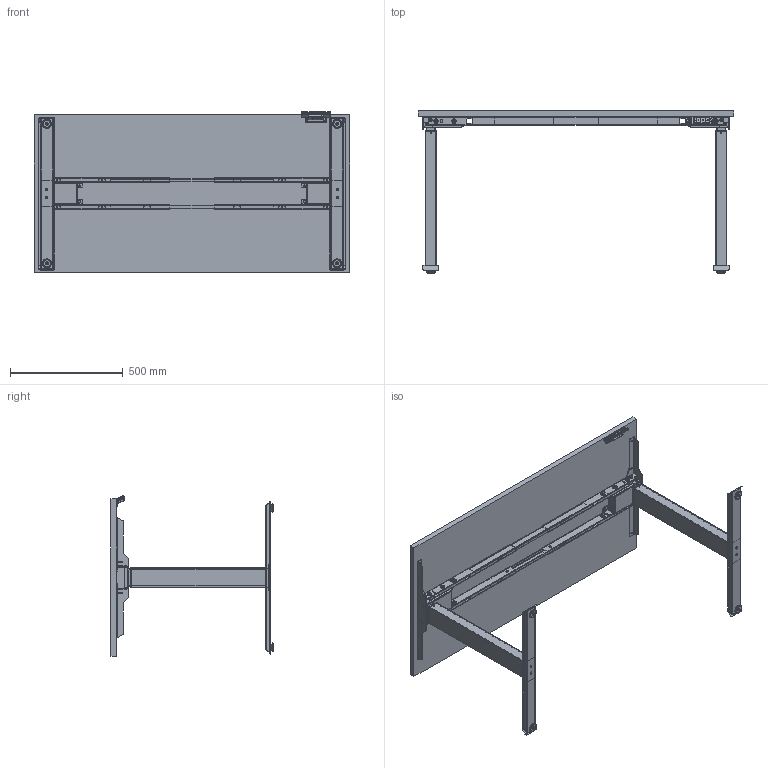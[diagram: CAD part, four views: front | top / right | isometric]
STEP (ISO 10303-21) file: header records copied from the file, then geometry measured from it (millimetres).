
FILE_DESCRIPTION (( 'STEP AP203' ), '1' );
FILE_NAME ('Mesa ACCESS Chapa.STEP', '2026-09-21T16:28:14', ( '' ), ( '' ), 'SwSTEP 2.0', 'SolidWorks 2026', '' );
FILE_SCHEMA (( 'CONFIG_CONTROL_DESIGN' ));
Length unit declared in the file: millimetre
Products named in the file (18): 042182; Mesa ACCESS Chapa; 039436; 021576_Ilustrativa; 042167; 031104M3; 042164; 000847; 039430; 035581; 042193; Tampo 700x1400; 042165; 004038; 029621; 042166; 039426; 039424M
Assembly tree (32 placements, depth 4):
  Mesa ACCESS Chapa
    039424M  x2
      039426
      039430
      031104M3
      021576_Ilustrativa
      004038
    042164  x2
      042165
        042166
        042167
        039436
      000847
    035581  x2
    042182  x2
    042193
    029621  x4
    Tampo 700x1400
Bounding box: 1400 x 720 x 714.3 mm (x, y, z)
Volume: 28609158.3 mm3; surface area: 5011196.8 mm2
Topology: 102 solids, 102 shells, 4900 faces, 12887 edges, 8271 vertices
Faces by surface type: plane 2724, cylinder 1644, bspline 257, torus 142, cone 131, sphere 2
Entity records: 118299 total; most frequent: CARTESIAN_POINT 40158, ORIENTED_EDGE 16224, DIRECTION 14942, EDGE_CURVE 8112, VECTOR 5926, LINE 5926, VERTEX_POINT 5237, AXIS2_PLACEMENT_3D 4508
